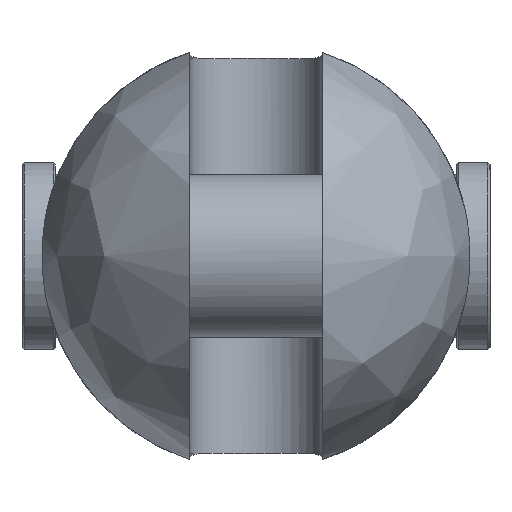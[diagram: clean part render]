
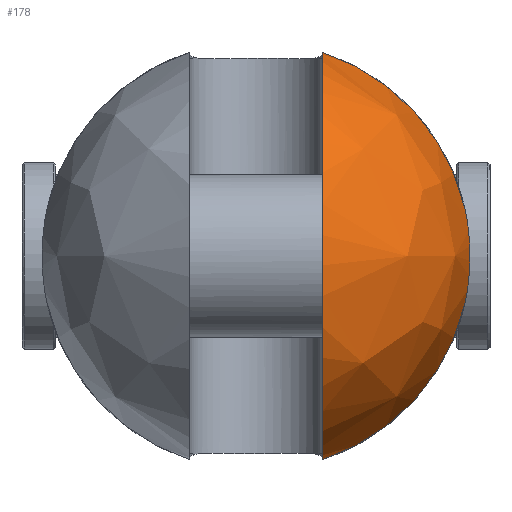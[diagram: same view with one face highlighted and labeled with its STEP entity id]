
A CAD part, left-side view. The second image highlights one B-rep face of the part: STEP entity #178.
In plain terms, the highlighted free-form (B-spline) face has degree [2, 2] with [9, 5] control points.
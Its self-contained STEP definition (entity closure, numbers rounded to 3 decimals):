
#178=ADVANCED_FACE('',(#318),#2404,.T.);
#318=FACE_OUTER_BOUND('',#478,.T.);
#478=EDGE_LOOP('',(#1187,#1188,#1189,#1190));
#1187=ORIENTED_EDGE('',*,*,#1570,.T.);
#1188=ORIENTED_EDGE('',*,*,#1594,.F.);
#1189=ORIENTED_EDGE('',*,*,#1612,.T.);
#1190=ORIENTED_EDGE('',*,*,#1586,.F.);
#1570=EDGE_CURVE('',#2237,#2236,#1972,.T.);
#1586=EDGE_CURVE('',#2237,#2249,#1982,.T.);
#1594=EDGE_CURVE('',#2256,#2236,#1983,.T.);
#1612=EDGE_CURVE('',#2256,#2249,#1780,.T.);
#1780=B_SPLINE_CURVE_WITH_KNOTS('',3,(#6125,#6126,#6127,#6128,#6129,#6130,
#6131,#6132,#6133,#6134,#6135,#6136,#6137,#6138),.UNSPECIFIED.,.F.,.F.,
(4,2,2,2,2,2,4),(-24.23,-23.407,-17.761,
-12.115,-6.469,-0.823,0.),
 .UNSPECIFIED.);
#1972=(
BOUNDED_CURVE()
B_SPLINE_CURVE(2,(#5874,#5875,#5876,#5877,#5878),.UNSPECIFIED.,.F.,.F.)
B_SPLINE_CURVE_WITH_KNOTS((3,2,3),(-153.786,-76.893,
0.),.UNSPECIFIED.)
CURVE()
GEOMETRIC_REPRESENTATION_ITEM()
RATIONAL_B_SPLINE_CURVE((1.,0.707,1.,0.707,1.))
REPRESENTATION_ITEM('')
);
#1982=(
BOUNDED_CURVE()
B_SPLINE_CURVE(2,(#5968,#5969,#5970),.UNSPECIFIED.,.F.,.F.)
B_SPLINE_CURVE_WITH_KNOTS((3,3),(0.,53.04),.UNSPECIFIED.)
CURVE()
GEOMETRIC_REPRESENTATION_ITEM()
RATIONAL_B_SPLINE_CURVE((1.,0.87,1.))
REPRESENTATION_ITEM('')
);
#1983=(
BOUNDED_CURVE()
B_SPLINE_CURVE(2,(#6025,#6026,#6027),.UNSPECIFIED.,.F.,.F.)
B_SPLINE_CURVE_WITH_KNOTS((3,3),(0.,53.04),.UNSPECIFIED.)
CURVE()
GEOMETRIC_REPRESENTATION_ITEM()
RATIONAL_B_SPLINE_CURVE((1.,0.87,1.))
REPRESENTATION_ITEM('')
);
#2236=VERTEX_POINT('',#5734);
#2237=VERTEX_POINT('',#5735);
#2249=VERTEX_POINT('',#5747);
#2256=VERTEX_POINT('',#5754);
#2404=(
BOUNDED_SURFACE()
B_SPLINE_SURFACE(2,2,((#5448,#5449,#5450,#5451,#5452),(#5453,#5454,#5455,
#5456,#5457),(#5458,#5459,#5460,#5461,#5462),(#5463,#5464,#5465,#5466,#5467),
(#5468,#5469,#5470,#5471,#5472),(#5473,#5474,#5475,#5476,#5477),(#5478,
#5479,#5480,#5481,#5482),(#5483,#5484,#5485,#5486,#5487),(#5488,#5489,#5490,
#5491,#5492)),.UNSPECIFIED.,.T.,.F.,.F.)
B_SPLINE_SURFACE_WITH_KNOTS((3,2,2,2,3),(3,2,3),(0.,80.896,161.792,
242.688,323.584),(0.,80.896,161.792),
 .UNSPECIFIED.)
GEOMETRIC_REPRESENTATION_ITEM()
RATIONAL_B_SPLINE_SURFACE(((1.,0.707,1.,0.707,1.),
(0.707,0.5,0.707,0.5,0.707),(1.,0.707,
1.,0.707,1.),(0.707,0.5,0.707,0.5,0.707),
(1.,0.707,1.,0.707,1.),(0.707,0.5,0.707,
0.5,0.707),(1.,0.707,1.,0.707,1.),(0.707,
0.5,0.707,0.5,0.707),(1.,0.707,1.,0.707,
1.)))
REPRESENTATION_ITEM('')
SURFACE()
);
#5448=CARTESIAN_POINT('',(-72.,0.,0.));
#5449=CARTESIAN_POINT('',(-72.,51.5,0.));
#5450=CARTESIAN_POINT('',(-20.5,51.5,0.));
#5451=CARTESIAN_POINT('',(31.,51.5,0.));
#5452=CARTESIAN_POINT('',(31.,0.,0.));
#5453=CARTESIAN_POINT('',(-72.,0.,0.));
#5454=CARTESIAN_POINT('',(-72.,51.5,51.5));
#5455=CARTESIAN_POINT('',(-20.5,51.5,51.5));
#5456=CARTESIAN_POINT('',(31.,51.5,51.5));
#5457=CARTESIAN_POINT('',(31.,0.,0.));
#5458=CARTESIAN_POINT('',(-72.,0.,0.));
#5459=CARTESIAN_POINT('',(-72.,0.,51.5));
#5460=CARTESIAN_POINT('',(-20.5,0.,51.5));
#5461=CARTESIAN_POINT('',(31.,0.,51.5));
#5462=CARTESIAN_POINT('',(31.,0.,0.));
#5463=CARTESIAN_POINT('',(-72.,0.,0.));
#5464=CARTESIAN_POINT('',(-72.,-51.5,51.5));
#5465=CARTESIAN_POINT('',(-20.5,-51.5,51.5));
#5466=CARTESIAN_POINT('',(31.,-51.5,51.5));
#5467=CARTESIAN_POINT('',(31.,0.,0.));
#5468=CARTESIAN_POINT('',(-72.,0.,0.));
#5469=CARTESIAN_POINT('',(-72.,-51.5,0.));
#5470=CARTESIAN_POINT('',(-20.5,-51.5,0.));
#5471=CARTESIAN_POINT('',(31.,-51.5,0.));
#5472=CARTESIAN_POINT('',(31.,0.,0.));
#5473=CARTESIAN_POINT('',(-72.,0.,0.));
#5474=CARTESIAN_POINT('',(-72.,-51.5,-51.5));
#5475=CARTESIAN_POINT('',(-20.5,-51.5,-51.5));
#5476=CARTESIAN_POINT('',(31.,-51.5,-51.5));
#5477=CARTESIAN_POINT('',(31.,0.,0.));
#5478=CARTESIAN_POINT('',(-72.,0.,0.));
#5479=CARTESIAN_POINT('',(-72.,0.,-51.5));
#5480=CARTESIAN_POINT('',(-20.5,0.,-51.5));
#5481=CARTESIAN_POINT('',(31.,0.,-51.5));
#5482=CARTESIAN_POINT('',(31.,0.,0.));
#5483=CARTESIAN_POINT('',(-72.,0.,0.));
#5484=CARTESIAN_POINT('',(-72.,51.5,-51.5));
#5485=CARTESIAN_POINT('',(-20.5,51.5,-51.5));
#5486=CARTESIAN_POINT('',(31.,51.5,-51.5));
#5487=CARTESIAN_POINT('',(31.,0.,0.));
#5488=CARTESIAN_POINT('',(-72.,0.,0.));
#5489=CARTESIAN_POINT('',(-72.,51.5,0.));
#5490=CARTESIAN_POINT('',(-20.5,51.5,0.));
#5491=CARTESIAN_POINT('',(31.,51.5,0.));
#5492=CARTESIAN_POINT('',(31.,0.,0.));
#5734=CARTESIAN_POINT('',(-20.5,-16.,-48.952));
#5735=CARTESIAN_POINT('',(-20.5,-16.,48.952));
#5747=CARTESIAN_POINT('',(-20.5,-50.202,11.489));
#5754=CARTESIAN_POINT('',(-20.5,-50.202,-11.489));
#5874=CARTESIAN_POINT('',(-20.5,-16.,48.952));
#5875=CARTESIAN_POINT('',(-69.452,-16.,48.952));
#5876=CARTESIAN_POINT('',(-69.452,-16.,0.));
#5877=CARTESIAN_POINT('',(-69.452,-16.,-48.952));
#5878=CARTESIAN_POINT('',(-20.5,-16.,-48.952));
#5968=CARTESIAN_POINT('',(-20.5,-16.,48.952));
#5969=CARTESIAN_POINT('',(-20.5,-43.701,39.897));
#5970=CARTESIAN_POINT('',(-20.5,-50.202,11.489));
#6025=CARTESIAN_POINT('',(-20.5,-50.202,-11.489));
#6026=CARTESIAN_POINT('',(-20.5,-43.701,-39.897));
#6027=CARTESIAN_POINT('',(-20.5,-16.,-48.952));
#6125=CARTESIAN_POINT('',(-20.5,-50.202,-11.489));
#6126=CARTESIAN_POINT('',(-20.633,-50.256,-11.252));
#6127=CARTESIAN_POINT('',(-20.762,-50.309,-11.012));
#6128=CARTESIAN_POINT('',(-21.743,-50.708,-9.109));
#6129=CARTESIAN_POINT('',(-22.405,-50.975,-7.332));
#6130=CARTESIAN_POINT('',(-23.284,-51.327,-3.69));
#6131=CARTESIAN_POINT('',(-23.5,-51.413,-1.826));
#6132=CARTESIAN_POINT('',(-23.5,-51.413,1.826));
#6133=CARTESIAN_POINT('',(-23.284,-51.327,3.69));
#6134=CARTESIAN_POINT('',(-22.405,-50.975,7.332));
#6135=CARTESIAN_POINT('',(-21.743,-50.708,9.109));
#6136=CARTESIAN_POINT('',(-20.762,-50.309,11.012));
#6137=CARTESIAN_POINT('',(-20.633,-50.256,11.252));
#6138=CARTESIAN_POINT('',(-20.5,-50.202,11.489));
